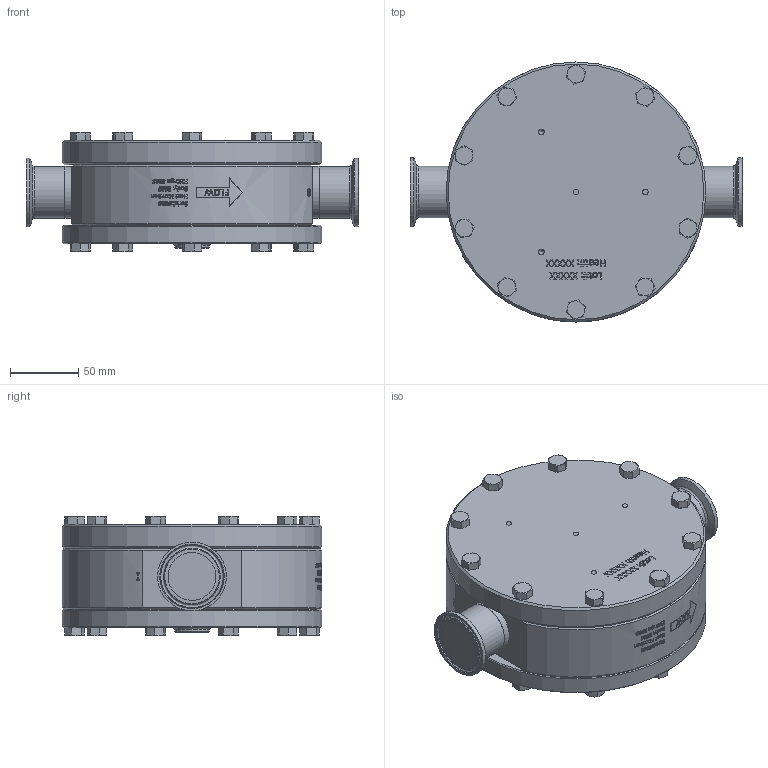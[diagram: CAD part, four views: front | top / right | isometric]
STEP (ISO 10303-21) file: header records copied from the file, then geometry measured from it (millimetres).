
FILE_DESCRIPTION(/* description */ (''),/* implementation_level */ '2;1');
FILE_NAME(/* name */ 'FDO12SHN4 Marketing External Assembly.stp',/* time_stamp */ '2024-08-19T13:47:36-04:00',/* author */ ('mkowall'),/* organization */ (''),/* preprocessor_version */ 'ST-DEVELOPER v19.2',/* originating_system */ 'Autodesk Inventor 2023',/* authorisation */ '');
FILE_SCHEMA (('AUTOMOTIVE_DESIGN { 1 0 10303 214 3 1 1 }'));
Length unit declared in the file: inch
Products named in the file (1): FDO12SHN4 Marketing External Assembly_Simplify_1
Bounding box: 243.33 x 190.5 x 87.76 mm (x, y, z)
Volume: 2205769 mm3; surface area: 273000.3 mm2
Topology: 25 solids, 29 shells, 3199 faces, 8510 edges, 5563 vertices
Faces by surface type: plane 1651, bspline 1051, cone 266, cylinder 202, torus 29
Full cylindrical faces by diameter (mm): 6.782 x20, 7.938 x20, 8.204 x20, 8.23 x20, 8.306 x1, 12.7 x20, 25.4 x1, 34.798 x2, 38.1 x4, 50.394 x2, 162.103 x1, 190.5 x2
Entity records: 130894 total; most frequent: CARTESIAN_POINT 58437, ORIENTED_EDGE 16962, DIRECTION 11608, EDGE_CURVE 8481, VERTEX_POINT 5563, LINE 4702, VECTOR 4702, EDGE_LOOP 3462
